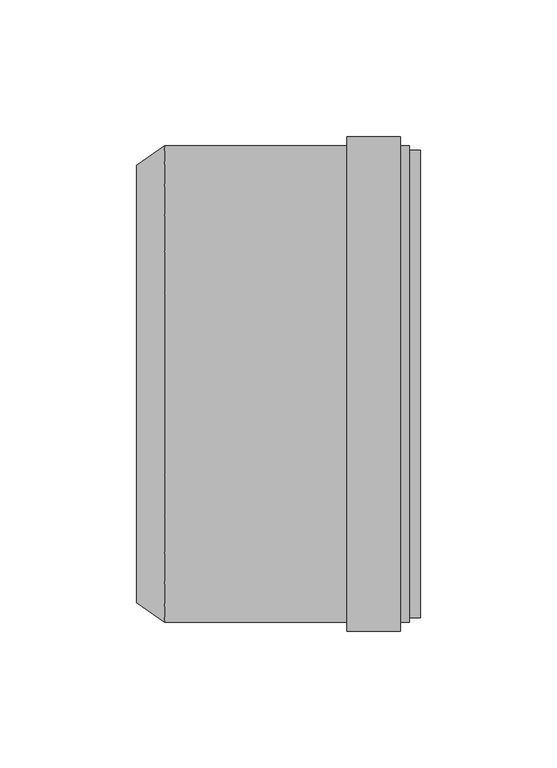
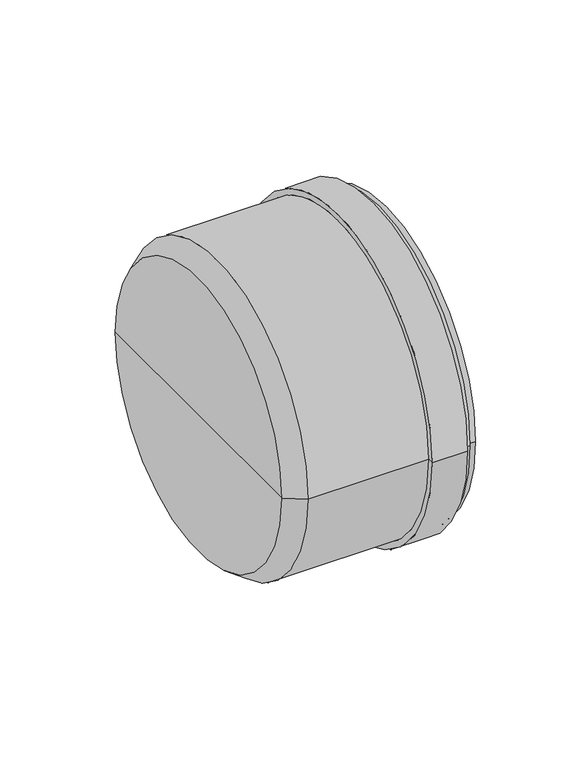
"""IFC4 building model written with IfcOpenShell, lengths in millimetres: pipe fitting geometry, pf_HTM_zatka : pf_HTM_zatka."""

from ifc_helpers import new_model, si_unit, frame, origin, place, context, project, spatial, polyline, circle_curve, source, transform, mapped, element, save
from ifc_brep_helpers import plane_surface, cylinder_surface, revolved_surface, advanced_brep


def pipe_fitting_a5771a54(model_context):
    return source(origin(), model_context, "Body", "AdvancedBrep", [
        advanced_brep(
        [(-100.0, -80.0, 0.0), (-100.0, 80.0, 0.0), (-89.7, 87.1, 0.0), (-89.7, -87.1, 0.0), (-100.0, 0.0, 0.0), (0.0, -87.1, 0.0), (0.0, 87.1, 0.0), (0.0, 0.0, 0.0), (-3.4, -87.1, 0.0), (-3.4, 87.1, 0.0), (-3.4, -90.5, 0.0), (-3.4, 90.5, 0.0), (-22.9, -90.5, 0.0), (-22.9, 90.5, 0.0), (-22.9, -87.1, 0.0), (-22.9, 87.1, 0.0)],
        [
            (0, 1, circle_curve(frame((-100.0, 0.0, 0.0), z_axis=(1.0, 0.0, 0.0), x_axis=(0.0, 1.0, 0.0)), 80.0)),
            (1, 2),
            (2, 3, circle_curve(frame((-89.7, 0.0, 0.0), z_axis=(-1.0, 0.0, 0.0), x_axis=(0.0, 1.0, 0.0)), 87.1)),
            (3, 0),
            (1, 0, circle_curve(frame((-100.0, 0.0, 0.0), z_axis=(1.0, 0.0, 0.0), x_axis=(0.0, 1.0, 0.0)), 80.0)),
            (3, 2, circle_curve(frame((-89.7, 0.0, 0.0), z_axis=(-1.0, 0.0, 0.0), x_axis=(0.0, 1.0, 0.0)), 87.1)),
            (4, 1),
            (0, 4),
            (5, 6, circle_curve(frame((0.0, 0.0, 0.0), z_axis=(1.0, 0.0, 0.0), x_axis=(0.0, 1.0, 0.0)), 87.1)),
            (6, 7),
            (7, 5),
            (6, 5, circle_curve(frame((0.0, 0.0, 0.0), z_axis=(1.0, 0.0, 0.0), x_axis=(0.0, 1.0, 0.0)), 87.1)),
            (8, 9, circle_curve(frame((-3.4, 0.0, 0.0), z_axis=(1.0, 0.0, 0.0), x_axis=(0.0, 1.0, 0.0)), 87.1)),
            (9, 6),
            (5, 8),
            (9, 8, circle_curve(frame((-3.4, 0.0, 0.0), z_axis=(1.0, 0.0, 0.0), x_axis=(0.0, 1.0, 0.0)), 87.1)),
            (10, 11, circle_curve(frame((-3.4, 0.0, 0.0), z_axis=(1.0, 0.0, 0.0), x_axis=(0.0, 1.0, 0.0)), 90.5)),
            (11, 9),
            (8, 10),
            (11, 10, circle_curve(frame((-3.4, 0.0, 0.0), z_axis=(1.0, 0.0, 0.0), x_axis=(0.0, 1.0, 0.0)), 90.5)),
            (12, 13, circle_curve(frame((-22.9, 0.0, 0.0), z_axis=(1.0, 0.0, 0.0), x_axis=(0.0, 1.0, 0.0)), 90.5)),
            (13, 11),
            (10, 12),
            (13, 12, circle_curve(frame((-22.9, 0.0, 0.0), z_axis=(1.0, 0.0, 0.0), x_axis=(0.0, 1.0, 0.0)), 90.5)),
            (14, 15, circle_curve(frame((-22.9, 0.0, 0.0), z_axis=(1.0, 0.0, 0.0), x_axis=(0.0, 1.0, 0.0)), 87.1)),
            (15, 13),
            (12, 14),
            (15, 14, circle_curve(frame((-22.9, 0.0, 0.0), z_axis=(1.0, 0.0, 0.0), x_axis=(0.0, 1.0, 0.0)), 87.1)),
            (2, 15),
            (14, 3),
        ],
        [
            revolved_surface(polyline([(-89.7, 87.1, 0.0), (-100.0, 80.0, 0.0)]), (-100.0, 0.0, 0.0), (-1.0, 0.0, 0.0)),
            plane_surface(frame((-100.0, 0.0, 0.0), z_axis=(-1.0, 0.0, 0.0), x_axis=(0.0, 1.0, 0.0))),
            plane_surface(frame((0.0, 0.0, 0.0), z_axis=(1.0, 0.0, 0.0), x_axis=(0.0, 1.0, 0.0))),
            cylinder_surface(frame((-100.0, 0.0, 0.0), z_axis=(-1.0, 0.0, 0.0), x_axis=(0.0, 1.0, 0.0)), 87.1),
            plane_surface(frame((-3.4, 0.0, 0.0), z_axis=(1.0, 0.0, 0.0), x_axis=(0.0, 1.0, 0.0))),
            cylinder_surface(frame((-100.0, 0.0, 0.0), z_axis=(-1.0, 0.0, 0.0), x_axis=(0.0, 1.0, 0.0)), 90.5),
            plane_surface(frame((-22.9, 0.0, 0.0), z_axis=(-1.0, 0.0, 0.0), x_axis=(0.0, 1.0, 0.0))),
        ],
        [
            (0, [[1, 2, 3, 4]]),
            (0, [[5, -4, 6, -2]]),
            (1, [[7, -1, 8]]),
            (1, [[-8, -5, -7]]),
            (2, [[9, 10, 11]]),
            (2, [[12, -11, -10]]),
            (3, [[13, 14, -9, 15]]),
            (3, [[16, -15, -12, -14]]),
            (4, [[17, 18, -13, 19]]),
            (4, [[20, -19, -16, -18]]),
            (5, [[21, 22, -17, 23]]),
            (5, [[24, -23, -20, -22]]),
            (6, [[25, 26, -21, 27]]),
            (6, [[28, -27, -24, -26]]),
            (3, [[-3, 29, -25, 30]]),
            (3, [[-6, -30, -28, -29]]),
        ],
    ),
        advanced_brep(
        [(-62.0, 0.0, 0.0), (-62.0, 80.0, 0.0), (-62.0, -80.0, 0.0), (3.9, -85.51, 0.0), (3.9, 85.51, 0.0), (3.9, 0.0, 0.0), (0.0, -85.51, 0.0), (0.0, 85.51, 0.0), (0.0, -81.61, 0.0), (0.0, 81.61, 0.0), (-58.0, -81.61, 0.0), (-58.0, 81.61, 0.0)],
        [
            (0, 1),
            (1, 2, circle_curve(frame((-62.0, 0.0, 0.0), z_axis=(-1.0, 0.0, 0.0), x_axis=(0.0, 1.0, 0.0)), 80.0)),
            (2, 0),
            (2, 1, circle_curve(frame((-62.0, 0.0, 0.0), z_axis=(-1.0, 0.0, 0.0), x_axis=(0.0, 1.0, 0.0)), 80.0)),
            (3, 4, circle_curve(frame((3.9, 0.0, 0.0), z_axis=(1.0, 0.0, 0.0), x_axis=(0.0, 1.0, 0.0)), 85.51)),
            (4, 5),
            (5, 3),
            (4, 3, circle_curve(frame((3.9, 0.0, 0.0), z_axis=(1.0, 0.0, 0.0), x_axis=(0.0, 1.0, 0.0)), 85.51)),
            (6, 7, circle_curve(frame((0.0, 0.0, 0.0), z_axis=(1.0, 0.0, 0.0), x_axis=(0.0, 1.0, 0.0)), 85.51)),
            (7, 4),
            (3, 6),
            (7, 6, circle_curve(frame((0.0, 0.0, 0.0), z_axis=(1.0, 0.0, 0.0), x_axis=(0.0, 1.0, 0.0)), 85.51)),
            (8, 9, circle_curve(frame((0.0, 0.0, 0.0), z_axis=(1.0, 0.0, 0.0), x_axis=(0.0, 1.0, 0.0)), 81.61)),
            (9, 7),
            (6, 8),
            (9, 8, circle_curve(frame((0.0, 0.0, 0.0), z_axis=(1.0, 0.0, 0.0), x_axis=(0.0, 1.0, 0.0)), 81.61)),
            (10, 11, circle_curve(frame((-58.0, 0.0, 0.0), z_axis=(1.0, 0.0, 0.0), x_axis=(0.0, 1.0, 0.0)), 81.61)),
            (11, 9),
            (8, 10),
            (11, 10, circle_curve(frame((-58.0, 0.0, 0.0), z_axis=(1.0, 0.0, 0.0), x_axis=(0.0, 1.0, 0.0)), 81.61)),
            (1, 11),
            (10, 2),
        ],
        [
            plane_surface(frame((-62.0, 0.0, 0.0), z_axis=(-1.0, 0.0, 0.0), x_axis=(0.0, 1.0, 0.0))),
            plane_surface(frame((3.9, 0.0, 0.0), z_axis=(1.0, 0.0, 0.0), x_axis=(0.0, 1.0, 0.0))),
            cylinder_surface(frame((-61.0241529, 0.0, 0.0), z_axis=(-1.0, 0.0, 0.0), x_axis=(0.0, 1.0, 0.0)), 85.51),
            plane_surface(frame((0.0, 0.0, 0.0), z_axis=(-1.0, 0.0, 0.0), x_axis=(0.0, 1.0, 0.0))),
            cylinder_surface(frame((-61.0241529, 0.0, 0.0), z_axis=(-1.0, 0.0, 0.0), x_axis=(0.0, 1.0, 0.0)), 81.61),
            revolved_surface(polyline([(-58.0, 81.61, 0.0), (-62.0, 80.0, 0.0)]), (-61.0241529, 0.0, 0.0), (-1.0, 0.0, 0.0)),
        ],
        [
            (0, [[1, 2, 3]]),
            (0, [[-3, 4, -1]]),
            (1, [[5, 6, 7]]),
            (1, [[8, -7, -6]]),
            (2, [[9, 10, -5, 11]]),
            (2, [[12, -11, -8, -10]]),
            (3, [[13, 14, -9, 15]]),
            (3, [[16, -15, -12, -14]]),
            (4, [[17, 18, -13, 19]]),
            (4, [[20, -19, -16, -18]]),
            (5, [[-2, 21, -17, 22]]),
            (5, [[-4, -22, -20, -21]]),
        ],
    ),
    ])


if __name__ == "__main__":
    model = new_model("IFC4")
    model_context = context("Model", 3, world=origin())
    ifc_project = project(units=[si_unit("LENGTHUNIT", "METRE", prefix="MILLI")], contexts=[model_context])
    site = spatial("IfcSite", under=ifc_project)
    building = spatial("IfcBuilding", under=site)
    placement = place(None, origin())
    pipe_fitting_shape = pipe_fitting_a5771a54(model_context)
    element("IfcPipeFitting", 1, ObjectType="pf_HTM_zatka : pf_HTM_zatka", at=placement, inside=building, context=model_context, shape_type="MappedRepresentation", body=[
        mapped(pipe_fitting_shape, transform((0.0, 0.0, 0.0), x_axis=(1.0, 0.0, 0.0), y_axis=(0.0, 1.0, 0.0), z_axis=(0.0, 0.0, 1.0))),
    ])
    save(model, "model.ifc")
